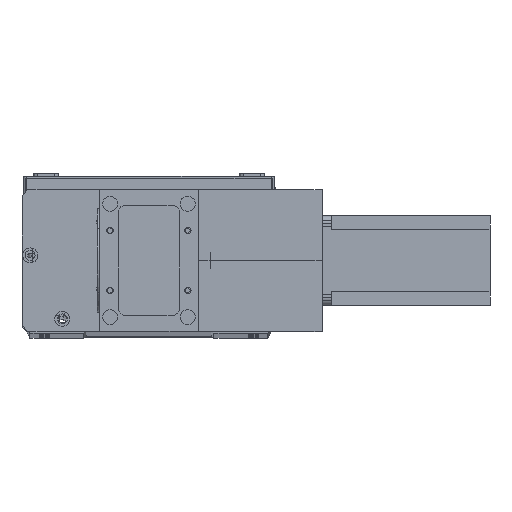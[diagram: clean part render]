
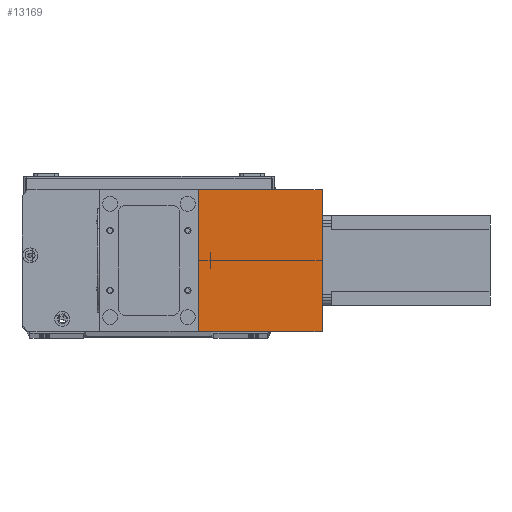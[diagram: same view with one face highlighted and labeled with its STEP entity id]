
A CAD part, top view. The second image highlights one B-rep face of the part: STEP entity #13169.
In plain terms, the highlighted planar face has unit normal (0, 0, 1) as drawn and (1, 0, 0) by its records, which use the part's own axes.
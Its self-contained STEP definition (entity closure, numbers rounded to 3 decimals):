
#33 = DIRECTION ( 'NONE',  ( 0., 0., 1. ) ) ;
#56 = DIRECTION ( 'NONE',  ( -1., 0., 0. ) ) ;
#275 = CARTESIAN_POINT ( 'NONE',  ( 82., 0., 83. ) ) ;
#319 = PLANE ( 'NONE',  #14658 ) ;
#1855 = EDGE_CURVE ( 'NONE', #21799, #24041, #6534, .T. ) ;
#1899 = VECTOR ( 'NONE', #15235, 1000. ) ;
#2134 = VECTOR ( 'NONE', #18508, 1000. ) ;
#2493 = LINE ( 'NONE', #28473, #8794 ) ;
#5612 = EDGE_CURVE ( 'NONE', #17060, #21799, #2493, .T. ) ;
#5833 = EDGE_LOOP ( 'NONE', ( #21193, #8412, #14626, #23919 ) ) ;
#6534 = LINE ( 'NONE', #15448, #17997 ) ;
#8270 = LINE ( 'NONE', #16856, #1899 ) ;
#8412 = ORIENTED_EDGE ( 'NONE', *, *, #12127, .F. ) ;
#8481 = LINE ( 'NONE', #18053, #2134 ) ;
#8640 = EDGE_CURVE ( 'NONE', #17060, #23240, #8270, .T. ) ;
#8794 = VECTOR ( 'NONE', #28509, 1000. ) ;
#12127 = EDGE_CURVE ( 'NONE', #23240, #24041, #8481, .T. ) ;
#12994 = CARTESIAN_POINT ( 'NONE',  ( 82., 95., 0. ) ) ;
#13169 = ADVANCED_FACE ( 'NONE', ( #15289 ), #319, .F. ) ;
#14626 = ORIENTED_EDGE ( 'NONE', *, *, #8640, .F. ) ;
#14658 = AXIS2_PLACEMENT_3D ( 'NONE', #275, #56, #33 ) ;
#15235 = DIRECTION ( 'NONE',  ( 0., 1., 0. ) ) ;
#15252 = DIRECTION ( 'NONE',  ( 0., 1., 0. ) ) ;
#15289 = FACE_OUTER_BOUND ( 'NONE', #5833, .T. ) ;
#15448 = CARTESIAN_POINT ( 'NONE',  ( 82., 0., 0. ) ) ;
#15985 = CARTESIAN_POINT ( 'NONE',  ( 82., 0., 83. ) ) ;
#16856 = CARTESIAN_POINT ( 'NONE',  ( 82., 0., 83. ) ) ;
#17060 = VERTEX_POINT ( 'NONE', #15985 ) ;
#17997 = VECTOR ( 'NONE', #15252, 1000. ) ;
#18053 = CARTESIAN_POINT ( 'NONE',  ( 82., 95., 83. ) ) ;
#18508 = DIRECTION ( 'NONE',  ( 0., 0., -1. ) ) ;
#21193 = ORIENTED_EDGE ( 'NONE', *, *, #1855, .T. ) ;
#21799 = VERTEX_POINT ( 'NONE', #22773 ) ;
#21821 = CARTESIAN_POINT ( 'NONE',  ( 82., 95., 83. ) ) ;
#22773 = CARTESIAN_POINT ( 'NONE',  ( 82., 0., 0. ) ) ;
#23240 = VERTEX_POINT ( 'NONE', #21821 ) ;
#23919 = ORIENTED_EDGE ( 'NONE', *, *, #5612, .T. ) ;
#24041 = VERTEX_POINT ( 'NONE', #12994 ) ;
#28473 = CARTESIAN_POINT ( 'NONE',  ( 82., 0., 83. ) ) ;
#28509 = DIRECTION ( 'NONE',  ( 0., 0., -1. ) ) ;
